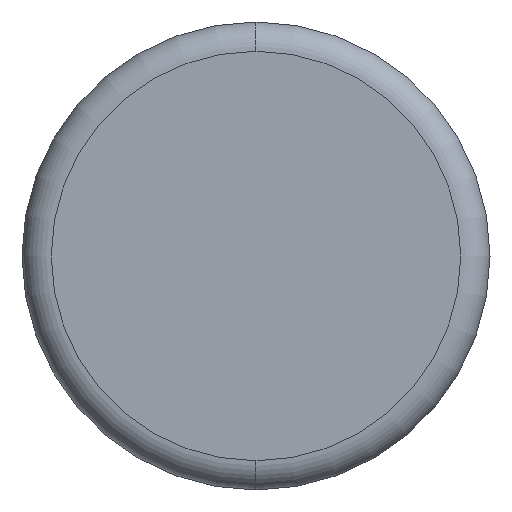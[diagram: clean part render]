
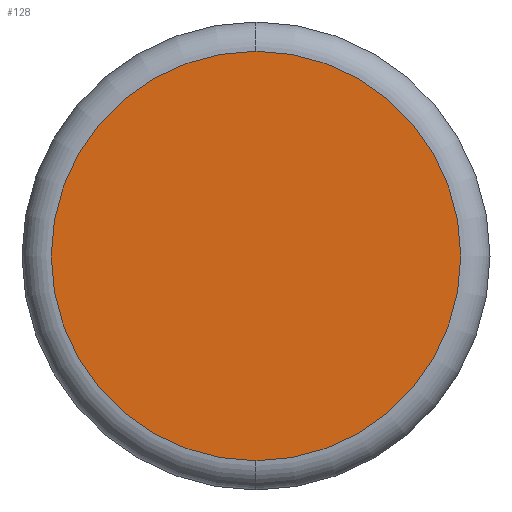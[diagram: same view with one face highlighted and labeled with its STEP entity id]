
A CAD part, left-side view. The second image highlights one B-rep face of the part: STEP entity #128.
In plain terms, the highlighted planar face has unit normal (-1, 0, 0).
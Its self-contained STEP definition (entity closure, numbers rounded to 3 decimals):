
#17 = EDGE_LOOP ( 'NONE', ( #54, #350 ) ) ;
#32 = AXIS2_PLACEMENT_3D ( 'NONE', #160, #335, #404 ) ;
#35 = DIRECTION ( 'NONE',  ( -1., 0., 0. ) ) ;
#40 = CARTESIAN_POINT ( 'NONE',  ( 0., 0., 0. ) ) ;
#49 = VERTEX_POINT ( 'NONE', #55 ) ;
#54 = ORIENTED_EDGE ( 'NONE', *, *, #392, .T. ) ;
#55 = CARTESIAN_POINT ( 'NONE',  ( 0., 0., 3.5 ) ) ;
#128 = ADVANCED_FACE ( 'NONE', ( #251 ), #370, .F. ) ;
#140 = CIRCLE ( 'NONE', #274, 3.5 ) ;
#145 = DIRECTION ( 'NONE',  ( -1., 0., 0. ) ) ;
#157 = DIRECTION ( 'NONE',  ( 0., 0., -1. ) ) ;
#160 = CARTESIAN_POINT ( 'NONE',  ( 0., 0., 0. ) ) ;
#172 = CIRCLE ( 'NONE', #193, 3.5 ) ;
#186 = CARTESIAN_POINT ( 'NONE',  ( 0., 0., 0. ) ) ;
#193 = AXIS2_PLACEMENT_3D ( 'NONE', #186, #35, #157 ) ;
#251 = FACE_OUTER_BOUND ( 'NONE', #17, .T. ) ;
#273 = CARTESIAN_POINT ( 'NONE',  ( 0., 0., -3.5 ) ) ;
#274 = AXIS2_PLACEMENT_3D ( 'NONE', #40, #145, #380 ) ;
#304 = EDGE_CURVE ( 'NONE', #49, #371, #140, .T. ) ;
#335 = DIRECTION ( 'NONE',  ( 1., 0., 0. ) ) ;
#350 = ORIENTED_EDGE ( 'NONE', *, *, #304, .T. ) ;
#370 = PLANE ( 'NONE',  #32 ) ;
#371 = VERTEX_POINT ( 'NONE', #273 ) ;
#380 = DIRECTION ( 'NONE',  ( 0., 0., -1. ) ) ;
#392 = EDGE_CURVE ( 'NONE', #371, #49, #172, .T. ) ;
#404 = DIRECTION ( 'NONE',  ( 0., 0., -1. ) ) ;
